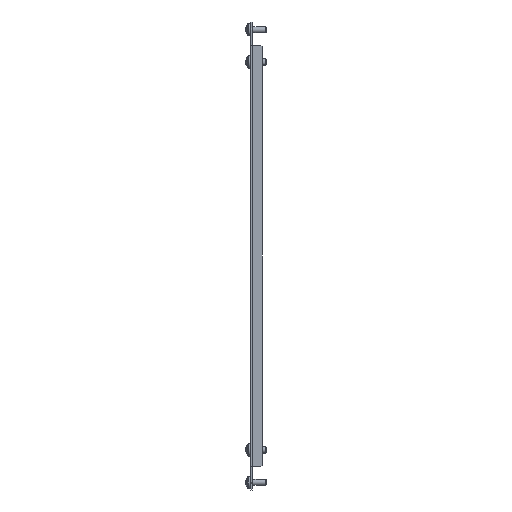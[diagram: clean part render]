
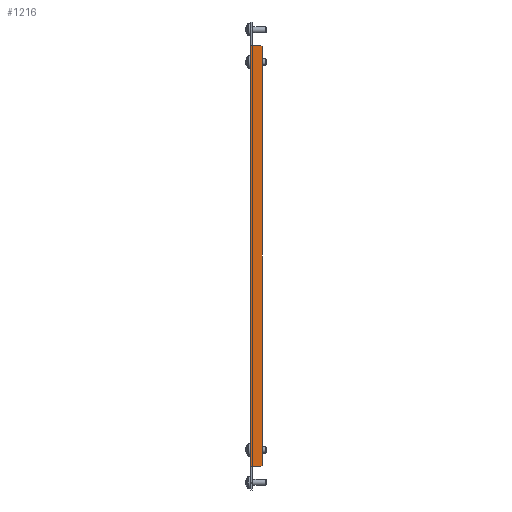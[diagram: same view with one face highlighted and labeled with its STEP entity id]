
A CAD part, left-side view. The second image highlights one B-rep face of the part: STEP entity #1216.
In plain terms, the highlighted planar face has unit normal (-1, 0, 0) as drawn and (1, 0, 0) by its records, which use the part's own axes.
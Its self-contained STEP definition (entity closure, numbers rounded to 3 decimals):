
#38 = CARTESIAN_POINT ( 'NONE',  ( 234., -163., -8. ) ) ;
#83 = EDGE_CURVE ( 'NONE', #1192, #2297, #551, .T. ) ;
#114 = EDGE_CURVE ( 'NONE', #1757, #1192, #1109, .T. ) ;
#128 = CARTESIAN_POINT ( 'NONE',  ( 234., 163., -2.1 ) ) ;
#320 = VECTOR ( 'NONE', #3153, 1000. ) ;
#397 = CARTESIAN_POINT ( 'NONE',  ( 234., 163., -2.1 ) ) ;
#409 = DIRECTION ( 'NONE',  ( -1., 0., 0. ) ) ;
#485 = EDGE_CURVE ( 'NONE', #2348, #776, #1511, .T. ) ;
#509 = CARTESIAN_POINT ( 'NONE',  ( 234., 0., 0. ) ) ;
#551 = LINE ( 'NONE', #397, #2133 ) ;
#570 = DIRECTION ( 'NONE',  ( 0., 0.707, -0.707 ) ) ;
#604 = CARTESIAN_POINT ( 'NONE',  ( 234., 162., -9. ) ) ;
#662 = VERTEX_POINT ( 'NONE', #2595 ) ;
#718 = DIRECTION ( 'NONE',  ( 0., -1., 0. ) ) ;
#776 = VERTEX_POINT ( 'NONE', #604 ) ;
#818 = DIRECTION ( 'NONE',  ( 0., 0., 1. ) ) ;
#838 = CARTESIAN_POINT ( 'NONE',  ( 234., -162., -9. ) ) ;
#847 = VECTOR ( 'NONE', #2583, 1000. ) ;
#893 = DIRECTION ( 'NONE',  ( 0., 0., -1. ) ) ;
#1032 = ORIENTED_EDGE ( 'NONE', *, *, #485, .T. ) ;
#1095 = DIRECTION ( 'NONE',  ( 0., 0., 1. ) ) ;
#1096 = CARTESIAN_POINT ( 'NONE',  ( 234., 163., -8. ) ) ;
#1109 = LINE ( 'NONE', #2449, #2462 ) ;
#1155 = FACE_OUTER_BOUND ( 'NONE', #1958, .T. ) ;
#1179 = VECTOR ( 'NONE', #570, 1000. ) ;
#1192 = VERTEX_POINT ( 'NONE', #128 ) ;
#1216 = ADVANCED_FACE ( 'NONE', ( #1155 ), #3213, .F. ) ;
#1396 = ORIENTED_EDGE ( 'NONE', *, *, #2985, .F. ) ;
#1511 = LINE ( 'NONE', #1797, #847 ) ;
#1530 = LINE ( 'NONE', #2100, #2200 ) ;
#1648 = LINE ( 'NONE', #1096, #320 ) ;
#1662 = CARTESIAN_POINT ( 'NONE',  ( 234., 163., 0. ) ) ;
#1665 = EDGE_CURVE ( 'NONE', #776, #1757, #1648, .T. ) ;
#1710 = AXIS2_PLACEMENT_3D ( 'NONE', #2715, #409, #2533 ) ;
#1757 = VERTEX_POINT ( 'NONE', #1972 ) ;
#1797 = CARTESIAN_POINT ( 'NONE',  ( 234., 0., -9. ) ) ;
#1910 = ORIENTED_EDGE ( 'NONE', *, *, #2435, .T. ) ;
#1922 = ORIENTED_EDGE ( 'NONE', *, *, #2542, .T. ) ;
#1958 = EDGE_LOOP ( 'NONE', ( #1032, #2463, #2565, #3150, #1910, #1396, #2427, #1922 ) ) ;
#1972 = CARTESIAN_POINT ( 'NONE',  ( 234., 163., -8. ) ) ;
#2037 = CARTESIAN_POINT ( 'NONE',  ( 234., -162., -9. ) ) ;
#2057 = VERTEX_POINT ( 'NONE', #38 ) ;
#2100 = CARTESIAN_POINT ( 'NONE',  ( 234., -163., 0. ) ) ;
#2132 = LINE ( 'NONE', #838, #1179 ) ;
#2133 = VECTOR ( 'NONE', #2932, 1000. ) ;
#2200 = VECTOR ( 'NONE', #818, 1000. ) ;
#2276 = EDGE_CURVE ( 'NONE', #3298, #2057, #2497, .T. ) ;
#2287 = CARTESIAN_POINT ( 'NONE',  ( 234., -163., -2.1 ) ) ;
#2297 = VERTEX_POINT ( 'NONE', #1662 ) ;
#2348 = VERTEX_POINT ( 'NONE', #2037 ) ;
#2365 = VECTOR ( 'NONE', #718, 1000. ) ;
#2427 = ORIENTED_EDGE ( 'NONE', *, *, #2276, .T. ) ;
#2435 = EDGE_CURVE ( 'NONE', #2297, #662, #2826, .T. ) ;
#2449 = CARTESIAN_POINT ( 'NONE',  ( 234., 163., 0. ) ) ;
#2462 = VECTOR ( 'NONE', #1095, 1000. ) ;
#2463 = ORIENTED_EDGE ( 'NONE', *, *, #1665, .T. ) ;
#2497 = LINE ( 'NONE', #3196, #2632 ) ;
#2533 = DIRECTION ( 'NONE',  ( 0., 0., 1. ) ) ;
#2542 = EDGE_CURVE ( 'NONE', #2057, #2348, #2132, .T. ) ;
#2565 = ORIENTED_EDGE ( 'NONE', *, *, #114, .T. ) ;
#2583 = DIRECTION ( 'NONE',  ( 0., 1., 0. ) ) ;
#2595 = CARTESIAN_POINT ( 'NONE',  ( 234., -163., 0. ) ) ;
#2632 = VECTOR ( 'NONE', #893, 1000. ) ;
#2715 = CARTESIAN_POINT ( 'NONE',  ( 234., 0., 0. ) ) ;
#2826 = LINE ( 'NONE', #509, #2365 ) ;
#2932 = DIRECTION ( 'NONE',  ( 0., 0., 1. ) ) ;
#2985 = EDGE_CURVE ( 'NONE', #3298, #662, #1530, .T. ) ;
#3150 = ORIENTED_EDGE ( 'NONE', *, *, #83, .T. ) ;
#3153 = DIRECTION ( 'NONE',  ( 0., 0.707, 0.707 ) ) ;
#3196 = CARTESIAN_POINT ( 'NONE',  ( 234., -163., 0. ) ) ;
#3213 = PLANE ( 'NONE',  #1710 ) ;
#3298 = VERTEX_POINT ( 'NONE', #2287 ) ;
